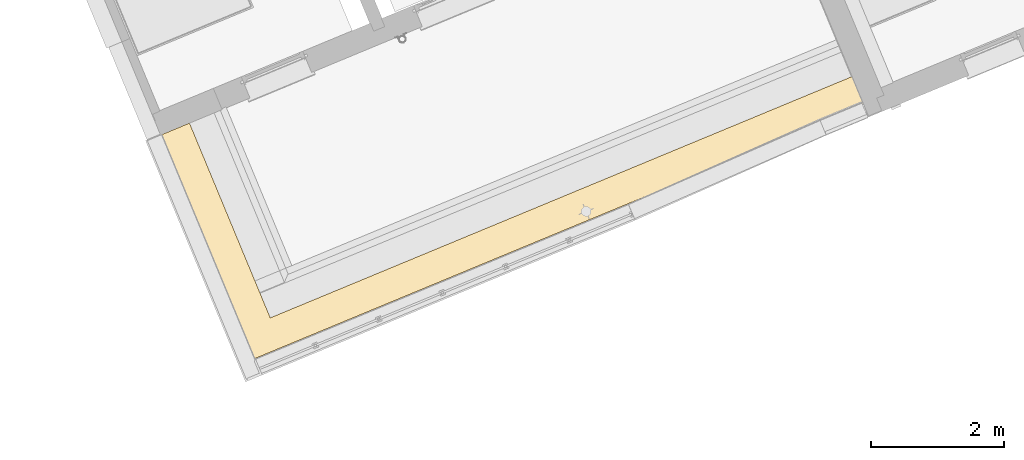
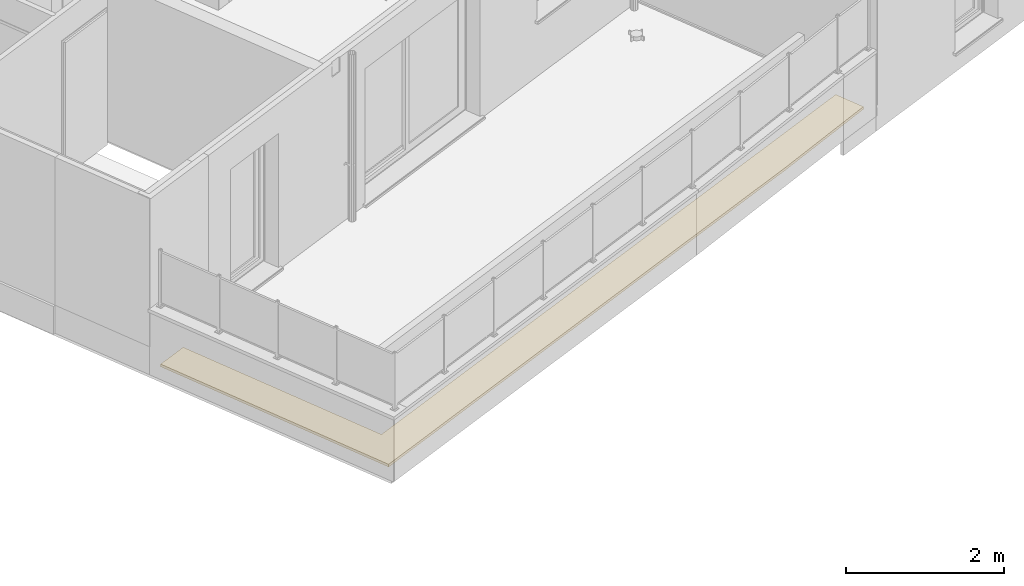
# One storey, part 68 of 119: 1 covering.
"""IFC2X3 building model written with IfcOpenShell, lengths in metres."""

from ifc_helpers import new_model, entity, si_unit, converted_unit, derived_unit, money_unit, direction, frame, origin_with_axes, place, context, subcontext, project, spatial, faceted_brep, material, type_object, element, save


model = new_model("IFC2X3")

# Units and contexts
model_context = context("Model", 3, precision=1e-05, world=origin_with_axes(), true_north=direction((0.0, 1.0)))
body_context = subcontext(model_context, "Body", "Model", "MODEL_VIEW")
ifc_project = project(units=[si_unit("LENGTHUNIT", "METRE"), si_unit("AREAUNIT", "SQUARE_METRE"), si_unit("VOLUMEUNIT", "CUBIC_METRE"), converted_unit("PLANEANGLEUNIT", "DEGREE", entity("IfcPlaneAngleMeasure", 0.0174532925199), si_unit("PLANEANGLEUNIT", "RADIAN"), dimensions=[0, 0, 0, 0, 0, 0, 0]), si_unit("SOLIDANGLEUNIT", "STERADIAN"), money_unit("EUR"), converted_unit("TIMEUNIT", "Year", entity("IfcTimeMeasure", 31556926.0), si_unit("TIMEUNIT", "SECOND"), dimensions=[0, 0, 1, 0, 0, 0, 0]), si_unit("MASSUNIT", "GRAM", prefix="KILO"), si_unit("THERMODYNAMICTEMPERATUREUNIT", "DEGREE_CELSIUS"), si_unit("LUMINOUSINTENSITYUNIT", "LUMEN"), si_unit("ENERGYUNIT", "JOULE", prefix="MEGA"), derived_unit("THERMALCONDUCTANCEUNIT", [(si_unit("POWERUNIT", "WATT"), 1), (si_unit("LENGTHUNIT", "METRE"), -1), (si_unit("THERMODYNAMICTEMPERATUREUNIT", "KELVIN"), -1)]), derived_unit("SPECIFICHEATCAPACITYUNIT", [(si_unit("ENERGYUNIT", "JOULE"), 1), (si_unit("MASSUNIT", "GRAM", prefix="KILO"), -1), (si_unit("THERMODYNAMICTEMPERATUREUNIT", "KELVIN"), -1)]), derived_unit("MASSDENSITYUNIT", [(si_unit("MASSUNIT", "GRAM", prefix="KILO"), 1), (si_unit("VOLUMEUNIT", "CUBIC_METRE"), -1)])], contexts=[model_context])

# Site, building, storey
site_placement = place(None, origin_with_axes())
site = spatial("IfcSite", under=ifc_project, at=site_placement, Name="Site", CompositionType="ELEMENT")
building_placement = place(site_placement, origin_with_axes())
building = spatial("IfcBuilding", under=site, at=building_placement, Name="Bâtiment", CompositionType="ELEMENT")
storey_placement = place(building_placement, origin_with_axes())
storey = spatial("IfcBuildingStorey", under=building, at=storey_placement, Name="Rez-de-chaussée", CompositionType="ELEMENT", Elevation=0.0)

# Covering
ifc_material = material(Name="Panneau drainage")
covering_type = type_object("IfcCoveringType", Name="Panneau drainage 40", PredefinedType="INSULATION")
covering_placement = place(storey_placement, frame((-30.7839100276, -28.5085320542, 0.05), z_axis=(0.0, 0.0, 1.0), x_axis=(1.0, 0.0, 0.0)))
element("IfcCovering", 1, at=covering_placement, inside=storey, type_object=covering_type, material=ifc_material, Name="Dalle_004", PredefinedType="INSULATION", context=body_context, shape_type="Brep", body=[
    faceted_brep([(0.0, 0.0, 0.0), (0.0, 0.0, -0.04), (1.39365809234, -3.36066825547, -0.04), (1.39365809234, -3.36066825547, 0.0), (0.434027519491, 0.180016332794, 0.0), (0.434027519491, 0.180016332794, -0.04), (1.64588591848, -2.7418290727, -0.04), (10.3777601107, 0.879784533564, -0.04), (10.5468123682, 0.472191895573, -0.04), (9.04197424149, -0.188468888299, -0.04), (9.04197424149, -0.188468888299, 0.0), (10.5468123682, 0.472191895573, 0.0), (10.3777601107, 0.879784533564, 0.0), (1.64588591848, -2.7418290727, 0.0)], [[[0, 1, 2, 3]], [[4, 5, 1, 0]], [[2, 1, 5, 6, 7, 8, 9]], [[3, 2, 9, 10]], [[4, 0, 3, 10, 11, 12, 13]], [[13, 6, 5, 4]], [[12, 7, 6, 13]], [[11, 8, 7, 12]], [[10, 9, 8, 11]]]),
])

save(model, "model.ifc")
